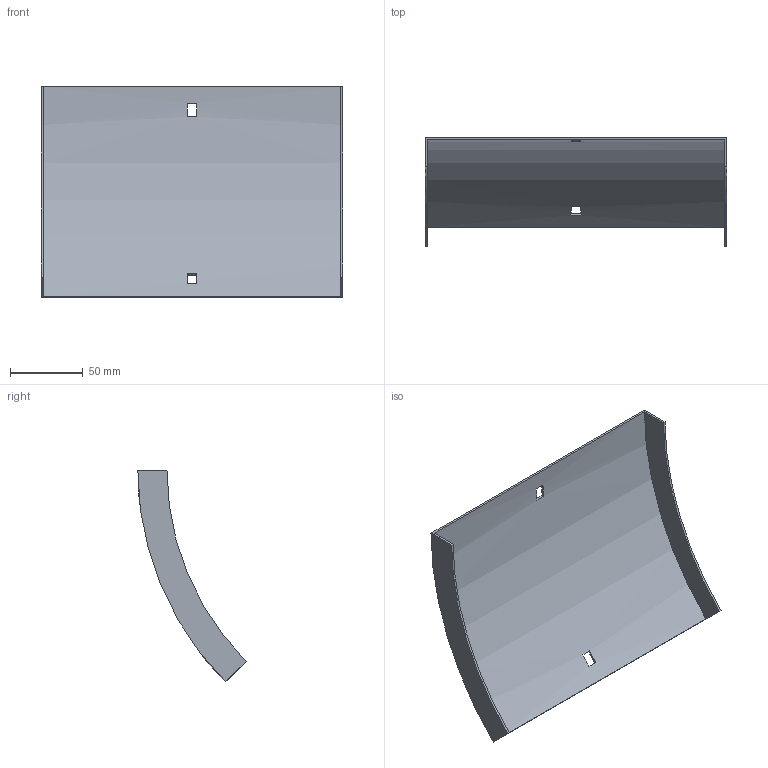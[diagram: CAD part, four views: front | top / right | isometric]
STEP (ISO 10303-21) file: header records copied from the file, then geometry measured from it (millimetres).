
FILE_DESCRIPTION (( 'STEP AP214' ), '1' );
FILE_NAME ('34N1D200.step', '2025-02-21T09:13:56', ( '' ), ( '' ), 'SwSTEP 2.0', 'SolidWorks 2023', '' );
FILE_SCHEMA (( 'AUTOMOTIVE_DESIGN' ));
Length unit declared in the file: millimetre
Products named in the file (1): 34N1D200
Bounding box: 207 x 74.33 x 145.31 mm (x, y, z)
Volume: 58244.6 mm3; surface area: 78923.6 mm2
Topology: 1 solids, 1 shells, 18 faces, 48 edges, 32 vertices
Faces by surface type: plane 14, cylinder 4
Entity records: 599 total; most frequent: DIRECTION 102, CARTESIAN_POINT 99, ORIENTED_EDGE 96, EDGE_CURVE 48, AXIS2_PLACEMENT_3D 35, VECTOR 32, VERTEX_POINT 32, LINE 32
